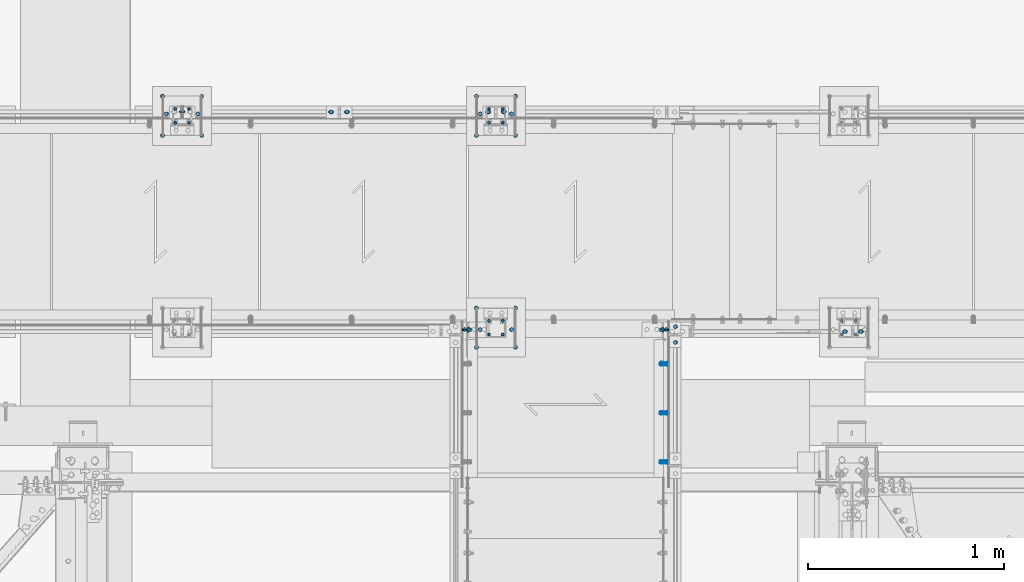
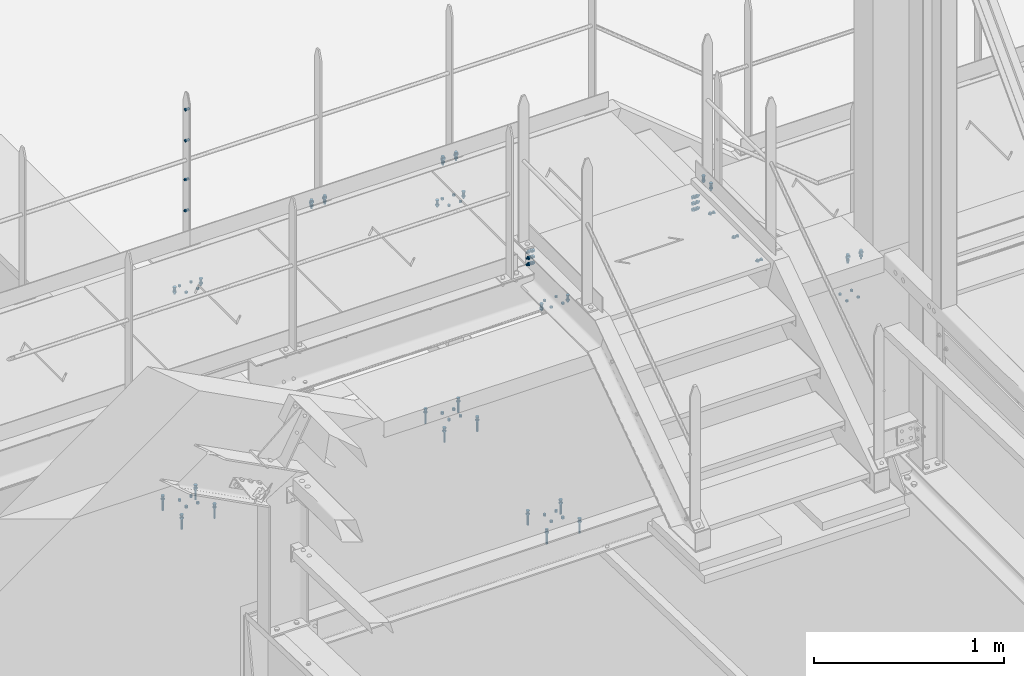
# One storey, part 182 of 362: 22 mechanical fasteners.
"""IFC2X3 building model written with IfcOpenShell, lengths in millimetres."""

from ifc_helpers import new_model, si_unit, frame, frame_2d, origin_with_axes, origin_2d_with_axis, place, context, subcontext, project, spatial, polyline, circle_curve, parameter, trimmed, segment, composite_curve, circle, outline, extrude, source, transform, mapped, material, type_object, element, save


model = new_model("IFC2X3")

# Units and contexts
model_context = context("Model", 3, precision=1e-05, world=origin_with_axes())
body_context = subcontext(model_context, "Body", "Model", "MODEL_VIEW")
ifc_project = project(units=[si_unit("LENGTHUNIT", "METRE", prefix="MILLI"), si_unit("AREAUNIT", "SQUARE_METRE"), si_unit("VOLUMEUNIT", "CUBIC_METRE"), si_unit("MASSUNIT", "GRAM", prefix="KILO"), si_unit("TIMEUNIT", "SECOND"), si_unit("PLANEANGLEUNIT", "RADIAN"), si_unit("SOLIDANGLEUNIT", "STERADIAN"), si_unit("THERMODYNAMICTEMPERATUREUNIT", "DEGREE_CELSIUS"), si_unit("LUMINOUSINTENSITYUNIT", "LUMEN")], contexts=[model_context])

# Site, building, storey
site_placement = place(None, origin_with_axes())
site = spatial("IfcSite", under=ifc_project, at=site_placement, Name="Undefined", CompositionType="ELEMENT")
building_placement = place(site_placement, origin_with_axes())
building = spatial("IfcBuilding", under=site, at=building_placement, Name="Undefined", CompositionType="ELEMENT")
storey_placement = place(building_placement, origin_with_axes())
storey = spatial("IfcBuildingStorey", under=building, at=storey_placement, Name="Undefined", CompositionType="ELEMENT", Elevation=0.0)

# Mechanical fasteners
ifc_material_1 = material(Name="8.8-SB-GALVA")
mechanical_fastener_type = type_object("IfcMechanicalFastenerType", Name="Bolt assembly")
shared_shape_1 = source(origin_with_axes(), body_context, "Body", "SweptSolid", [
    extrude(circle(Radius=7.0, at=origin_2d_with_axis()), frame((0.0, -0.100155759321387, 0.0), z_axis=(0.0, 1.0, 0.0), x_axis=(1.0, 0.0, 0.0)), (0.0, 0.0, 1.0), 12.9),
    extrude(outline(composite_curve([segment(polyline([(-7.0, 7.0), (7.0, 7.0)]), True, "CONTINUOUS"), segment(trimmed(circle_curve(frame_2d((7.0, 0.0), x_axis=(0.0, 1.0)), 7.0), [parameter(0.0)], [parameter(3.14159265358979)], False, "PARAMETER"), True, "CONTINUOUS"), segment(polyline([(7.0, -7.0), (-7.0, -7.0)]), True, "CONTINUOUS"), segment(trimmed(circle_curve(frame_2d((-7.0, 0.0), x_axis=(0.0, -1.0)), 7.0), [parameter(0.0)], [parameter(3.14159265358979)], False, "PARAMETER"), True, "DISCONTINUOUS")], self_intersect=False)), frame((0.0, -9.9, 0.0), z_axis=(0.0, 1.0, 0.0), x_axis=(1.0, 0.0, 0.0)), (0.0, 0.0, 1.0), 10.0),
    extrude(outline(polyline([(10.39230484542, 0.0), (5.19615242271, 9.00000000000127), (-5.19615242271, 9.00000000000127), (-10.39230484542, 0.0), (-5.19615242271, -9.00000000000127), (5.19615242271, -9.00000000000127), (10.39230484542, 0.0)])), frame((0.0, -21.88, 0.0), z_axis=(0.0, 1.0, 0.0), x_axis=(1.0, 0.0, 0.0)), (0.0, 0.0, 1.0), 7.92),
    extrude(circle(Radius=6.0, at=origin_2d_with_axis()), frame((0.0, -13.96, 0.0), z_axis=(0.0, 1.0, 0.0), x_axis=(1.0, 0.0, 0.0)), (0.0, 0.0, 1.0), 50.0),
    extrude(circle(Radius=10.8, at=origin_2d_with_axis()), frame((0.0, -13.96, 0.0), z_axis=(0.0, 1.0, 0.0), x_axis=(1.0, 0.0, 0.0)), (0.0, 0.0, 1.0), 3.96),
    extrude(outline(polyline([(11.5008173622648, 0.0), (5.7504086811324, 9.96000000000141), (-5.7504086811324, 9.96000000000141), (-11.5008173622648, 0.0), (-5.7504086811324, -9.96000000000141), (5.7504086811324, -9.96000000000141), (11.5008173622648, 0.0)])), frame((0.0, 12.7998611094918, 0.0), z_axis=(0.0, 1.0, 0.0), x_axis=(1.0, 0.0, 0.0)), (0.0, 0.0, 1.0), 7.92),
])
mechanical_fastener_1_placement = place(storey_placement, frame((23435.0123796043, 15970.0000882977, 8109.9999407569), z_axis=(0.0, 1.0, 0.0), x_axis=(1.0, 0.0, 0.0)))
element("IfcMechanicalFastener", 1, at=mechanical_fastener_1_placement, inside=storey, type_object=mechanical_fastener_type, material=ifc_material_1, Name="Bolt assembly", NominalDiameter=12.0, NominalLength=50.0, context=body_context, shape_type="MappedRepresentation", body=[
    mapped(shared_shape_1, transform((0.0, 0.0, 0.0))),
    mapped(shared_shape_1, transform((80.0, 0.0, 0.0))),
])
ifc_material_2 = material(Name="6.8")
shared_shape_2 = source(origin_with_axes(), body_context, "Body", "SweptSolid", [
    extrude(circle(Radius=7.0, at=origin_2d_with_axis()), frame((0.0, -12.0, 0.0), z_axis=(0.0, 1.0, 0.0), x_axis=(1.0, 0.0, 0.0)), (0.0, 0.0, 1.0), 12.1),
])
mechanical_fastener_2_placement = place(storey_placement, frame((20055.0, 17034.9998774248, 7050.0), z_axis=(-1.0, 0.0, 0.0), x_axis=(0.0, 1.0, 0.0)))
element("IfcMechanicalFastener", 2, at=mechanical_fastener_2_placement, inside=storey, type_object=mechanical_fastener_type, material=ifc_material_2, Name="Bolt assembly", NominalDiameter=12.0, NominalLength=12.0, context=body_context, shape_type="MappedRepresentation", body=[
    mapped(shared_shape_2, transform((0.0, 0.0, -35.0))),
    mapped(shared_shape_2, transform((70.0, 0.0, -35.0))),
    mapped(shared_shape_2, transform((0.0, 0.0, 35.0))),
    mapped(shared_shape_2, transform((70.0, 0.0, 35.0))),
])
mechanical_fastener_3_placement = place(storey_placement, frame((21655.0, 16025.0001225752, 7050.0), z_axis=(1.0, 0.0, 0.0), x_axis=(0.0, -1.0, 0.0)))
element("IfcMechanicalFastener", 3, at=mechanical_fastener_3_placement, inside=storey, type_object=mechanical_fastener_type, material=ifc_material_2, Name="Bolt assembly", NominalDiameter=12.0, NominalLength=12.0, context=body_context, shape_type="MappedRepresentation", body=[
    mapped(shared_shape_2, transform((0.0, 0.0, 35.0))),
    mapped(shared_shape_2, transform((70.0, 0.0, 35.0))),
    mapped(shared_shape_2, transform((0.0, 0.0, -35.0))),
    mapped(shared_shape_2, transform((70.0, 0.0, -35.0))),
])
mechanical_fastener_4_placement = place(storey_placement, frame((21655.0, 17034.9998774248, 7050.0), z_axis=(-1.0, 0.0, 0.0), x_axis=(0.0, 1.0, 0.0)))
element("IfcMechanicalFastener", 4, at=mechanical_fastener_4_placement, inside=storey, type_object=mechanical_fastener_type, material=ifc_material_2, Name="Bolt assembly", NominalDiameter=12.0, NominalLength=12.0, context=body_context, shape_type="MappedRepresentation", body=[
    mapped(shared_shape_2, transform((0.0, 0.0, -35.0))),
    mapped(shared_shape_2, transform((70.0, 0.0, -35.0))),
    mapped(shared_shape_2, transform((0.0, 0.0, 35.0))),
    mapped(shared_shape_2, transform((70.0, 0.0, 35.0))),
])
ifc_material_3 = material(Name="HILTI-HSA-R")
shared_shape_3 = source(origin_with_axes(), body_context, "Body", "SweptSolid", [
    extrude(circle(Radius=7.0, at=origin_2d_with_axis()), frame((0.0, -12.0, 0.0), z_axis=(0.0, 1.0, 0.0), x_axis=(1.0, 0.0, 0.0)), (0.0, 0.0, 1.0), 12.1),
    extrude(outline(polyline([(10.39230484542, 0.0), (5.19615242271, 9.00000000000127), (-5.19615242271, 9.00000000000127), (-10.39230484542, 0.0), (-5.19615242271, -9.00000000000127), (5.19615242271, -9.00000000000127), (10.39230484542, 0.0)])), frame((0.0, -19.92, 0.0), z_axis=(0.0, 1.0, 0.0), x_axis=(1.0, 0.0, 0.0)), (0.0, 0.0, 1.0), 7.92),
    extrude(circle(Radius=6.0, at=origin_2d_with_axis()), frame((0.0, -12.0, 0.0), z_axis=(0.0, 1.0, 0.0), x_axis=(1.0, 0.0, 0.0)), (0.0, 0.0, 1.0), 89.2),
    extrude(outline(polyline([(11.5008173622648, 0.0), (5.7504086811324, 9.96000000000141), (-5.7504086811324, 9.96000000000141), (-11.5008173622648, 0.0), (-5.7504086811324, -9.96000000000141), (5.7504086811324, -9.96000000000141), (11.5008173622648, 0.0)])), frame((0.0, 0.0, 0.0), z_axis=(0.0, 1.0, 0.0), x_axis=(1.0, 0.0, 0.0)), (0.0, 0.0, 1.0), 7.92),
])
mechanical_fastener_5_placement = place(storey_placement, frame((20055.0, 16969.9998774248, 7050.0), z_axis=(-1.0, 0.0, 0.0), x_axis=(0.0, 1.0, 0.0)))
element("IfcMechanicalFastener", 5, at=mechanical_fastener_5_placement, inside=storey, type_object=mechanical_fastener_type, material=ifc_material_3, Name="Bolt assembly", NominalDiameter=12.0, NominalLength=89.1999969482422, context=body_context, shape_type="MappedRepresentation", body=[
    mapped(shared_shape_3, transform((0.0, 0.0, -100.0))),
    mapped(shared_shape_3, transform((200.0, 0.0, -100.0))),
    mapped(shared_shape_3, transform((0.0, 0.0, 100.0))),
    mapped(shared_shape_3, transform((200.0, 0.0, 100.0))),
])
mechanical_fastener_6_placement = place(storey_placement, frame((21655.0, 16090.0001225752, 7050.0), z_axis=(1.0, 0.0, 0.0), x_axis=(0.0, -1.0, 0.0)))
element("IfcMechanicalFastener", 6, at=mechanical_fastener_6_placement, inside=storey, type_object=mechanical_fastener_type, material=ifc_material_3, Name="Bolt assembly", NominalDiameter=12.0, NominalLength=89.1999969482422, context=body_context, shape_type="MappedRepresentation", body=[
    mapped(shared_shape_3, transform((0.0, 0.0, 100.0))),
    mapped(shared_shape_3, transform((200.0, 0.0, 100.0))),
    mapped(shared_shape_3, transform((0.0, 0.0, -100.0))),
    mapped(shared_shape_3, transform((200.0, 0.0, -100.0))),
])
mechanical_fastener_7_placement = place(storey_placement, frame((21655.0, 16969.9998774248, 7050.0), z_axis=(-1.0, 0.0, 0.0), x_axis=(0.0, 1.0, 0.0)))
element("IfcMechanicalFastener", 7, at=mechanical_fastener_7_placement, inside=storey, type_object=mechanical_fastener_type, material=ifc_material_3, Name="Bolt assembly", NominalDiameter=12.0, NominalLength=89.1999969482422, context=body_context, shape_type="MappedRepresentation", body=[
    mapped(shared_shape_3, transform((0.0, 0.0, -100.0))),
    mapped(shared_shape_3, transform((200.0, 0.0, -100.0))),
    mapped(shared_shape_3, transform((0.0, 0.0, 100.0))),
    mapped(shared_shape_3, transform((200.0, 0.0, 100.0))),
])
shared_shape_4 = source(origin_with_axes(), body_context, "Body", "SweptSolid", [
    extrude(circle(Radius=5.0, at=origin_2d_with_axis()), frame((0.0, -4.90000000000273, 0.0), z_axis=(0.0, 1.0, 0.0), x_axis=(1.0, 0.0, 0.0)), (0.0, 0.0, 1.0), 5.0),
    extrude(circle(Radius=5.0, at=origin_2d_with_axis()), frame((0.0, -0.100011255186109, 0.0), z_axis=(0.0, 1.0, 0.0), x_axis=(1.0, 0.0, 0.0)), (0.0, 0.0, 1.0), 5.1),
    extrude(outline(polyline([(7.50555349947, 0.0), (3.752776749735, 6.50000000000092), (-3.752776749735, 6.50000000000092), (-7.50555349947, 0.0), (-3.752776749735, -6.50000000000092), (3.752776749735, -6.50000000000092), (7.50555349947, 0.0)])), frame((0.0, -10.5000000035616, 0.0), z_axis=(0.0, 1.0, 0.0), x_axis=(1.0, 0.0, 0.0)), (0.0, 0.0, 1.0), 5.5),
    extrude(circle(Radius=4.0, at=origin_2d_with_axis()), frame((0.0, -5.00000000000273, 0.0), z_axis=(0.0, 1.0, 0.0), x_axis=(1.0, 0.0, 0.0)), (0.0, 0.0, 1.0), 20.0),
    extrude(outline(polyline([(7.50555349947, 0.0), (3.752776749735, 6.50000000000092), (-3.752776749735, 6.50000000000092), (-7.50555349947, 0.0), (-3.752776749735, -6.50000000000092), (3.752776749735, -6.50000000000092), (7.50555349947, 0.0)])), frame((0.0, 5.0, 0.0), z_axis=(0.0, 1.0, 0.0), x_axis=(1.0, 0.0, 0.0)), (0.0, 0.0, 1.0), 6.8),
])
mechanical_fastener_8_placement = place(storey_placement, frame((20054.9961849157, 17089.9938659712, 9118.80000001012), z_axis=(0.0, 1.0, 0.0), x_axis=(0.0, 0.0, -1.0)))
element("IfcMechanicalFastener", 8, at=mechanical_fastener_8_placement, inside=storey, type_object=mechanical_fastener_type, material=ifc_material_2, Name="Bolt assembly", NominalDiameter=8.0, NominalLength=20.0, context=body_context, shape_type="MappedRepresentation", body=[
    mapped(shared_shape_4, transform((0.0, 0.0, 0.0))),
    mapped(shared_shape_4, transform((200.0, 0.0, 0.0))),
])
shared_shape_5 = source(origin_with_axes(), body_context, "Body", "SweptSolid", [
    extrude(circle(Radius=5.0, at=origin_2d_with_axis()), frame((0.0, -0.100011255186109, 0.0), z_axis=(0.0, 1.0, 0.0), x_axis=(1.0, 0.0, 0.0)), (0.0, 0.0, 1.0), 5.1),
    extrude(circle(Radius=5.0, at=origin_2d_with_axis()), frame((0.0, -4.90000000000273, 0.0), z_axis=(0.0, 1.0, 0.0), x_axis=(1.0, 0.0, 0.0)), (0.0, 0.0, 1.0), 5.0),
    extrude(outline(polyline([(7.50555349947, 0.0), (3.752776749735, 6.50000000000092), (-3.752776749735, 6.50000000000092), (-7.50555349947, 0.0), (-3.752776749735, -6.50000000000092), (3.752776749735, -6.50000000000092), (7.50555349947, 0.0)])), frame((0.0, -10.5000000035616, 0.0), z_axis=(0.0, 1.0, 0.0), x_axis=(1.0, 0.0, 0.0)), (0.0, 0.0, 1.0), 5.5),
    extrude(circle(Radius=4.0, at=origin_2d_with_axis()), frame((0.0, -5.00000000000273, 0.0), z_axis=(0.0, 1.0, 0.0), x_axis=(1.0, 0.0, 0.0)), (0.0, 0.0, 1.0), 20.0),
    extrude(outline(polyline([(7.50555349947, 0.0), (3.752776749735, 6.50000000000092), (-3.752776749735, 6.50000000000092), (-7.50555349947, 0.0), (-3.752776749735, -6.50000000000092), (3.752776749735, -6.50000000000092), (7.50555349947, 0.0)])), frame((0.0, 5.0, 0.0), z_axis=(0.0, 1.0, 0.0), x_axis=(1.0, 0.0, 0.0)), (0.0, 0.0, 1.0), 6.8),
])
mechanical_fastener_9_placement = place(storey_placement, frame((20054.9961849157, 17089.9938659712, 9368.80000001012), z_axis=(0.0, 1.0, 0.0), x_axis=(0.0, 0.0, 1.0)))
element("IfcMechanicalFastener", 9, at=mechanical_fastener_9_placement, inside=storey, type_object=mechanical_fastener_type, material=ifc_material_2, Name="Bolt assembly", NominalDiameter=8.0, NominalLength=20.0, context=body_context, shape_type="MappedRepresentation", body=[
    mapped(shared_shape_5, transform((0.0, 0.0, 0.0))),
    mapped(shared_shape_5, transform((200.0, 0.0, 0.0))),
])
shared_shape_6 = source(origin_with_axes(), body_context, "Body", "SweptSolid", [
    extrude(circle(Radius=7.0, at=origin_2d_with_axis()), frame((0.0, -0.10007666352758, 0.0), z_axis=(0.0, 1.0, 0.0), x_axis=(1.0, 0.0, 0.0)), (0.0, 0.0, 1.0), 12.9),
    extrude(outline(composite_curve([segment(polyline([(-7.0, 7.0), (7.0, 7.0)]), True, "CONTINUOUS"), segment(trimmed(circle_curve(frame_2d((7.0, 0.0), x_axis=(0.0, 1.0)), 7.0), [parameter(0.0)], [parameter(3.14159265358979)], False, "PARAMETER"), True, "CONTINUOUS"), segment(polyline([(7.0, -7.0), (-7.0, -7.0)]), True, "CONTINUOUS"), segment(trimmed(circle_curve(frame_2d((-7.0, 0.0), x_axis=(0.0, -1.0)), 7.0), [parameter(0.0)], [parameter(3.14159265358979)], False, "PARAMETER"), True, "DISCONTINUOUS")], self_intersect=False)), frame((0.0, -9.9, 0.0), z_axis=(0.0, 1.0, 0.0), x_axis=(1.0, 0.0, 0.0)), (0.0, 0.0, 1.0), 10.0),
    extrude(outline(polyline([(10.39230484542, 0.0), (5.19615242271, 9.00000000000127), (-5.19615242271, 9.00000000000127), (-10.39230484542, 0.0), (-5.19615242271, -9.00000000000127), (5.19615242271, -9.00000000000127), (10.39230484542, 0.0)])), frame((0.0, -21.88, 0.0), z_axis=(0.0, 1.0, 0.0), x_axis=(1.0, 0.0, 0.0)), (0.0, 0.0, 1.0), 7.92),
    extrude(circle(Radius=6.0, at=origin_2d_with_axis()), frame((0.0, -13.96, 0.0), z_axis=(0.0, 1.0, 0.0), x_axis=(1.0, 0.0, 0.0)), (0.0, 0.0, 1.0), 50.0),
    extrude(circle(Radius=10.8, at=origin_2d_with_axis()), frame((0.0, -13.96, 0.0), z_axis=(0.0, 1.0, 0.0), x_axis=(1.0, 0.0, 0.0)), (0.0, 0.0, 1.0), 3.96),
    extrude(outline(polyline([(11.5008173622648, 0.0), (5.7504086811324, 9.96000000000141), (-5.7504086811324, 9.96000000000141), (-11.5008173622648, 0.0), (-5.7504086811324, -9.96000000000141), (5.7504086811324, -9.96000000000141), (11.5008173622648, 0.0)])), frame((0.0, 12.8003194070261, 0.0), z_axis=(0.0, 1.0, 0.0), x_axis=(1.0, 0.0, 0.0)), (0.0, 0.0, 1.0), 7.92),
])
mechanical_fastener_10_placement = place(storey_placement, frame((20815.0023796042, 17089.9938659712, 8700.00000001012), z_axis=(0.0, 1.0, 0.0), x_axis=(1.0, 0.0, 0.0)))
element("IfcMechanicalFastener", 10, at=mechanical_fastener_10_placement, inside=storey, type_object=mechanical_fastener_type, material=ifc_material_1, Name="Bolt assembly", NominalDiameter=12.0, NominalLength=50.0, context=body_context, shape_type="MappedRepresentation", body=[
    mapped(shared_shape_6, transform((0.0, 0.0, 0.0))),
    mapped(shared_shape_6, transform((80.0, 0.0, 0.0))),
])
shared_shape_7 = source(origin_with_axes(), body_context, "Body", "SweptSolid", [
    extrude(circle(Radius=7.0, at=origin_2d_with_axis()), frame((0.0, -0.10007666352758, 0.0), z_axis=(0.0, 1.0, 0.0), x_axis=(1.0, 0.0, 0.0)), (0.0, 0.0, 1.0), 12.9),
    extrude(outline(composite_curve([segment(polyline([(-7.0, 7.0), (7.0, 7.0)]), True, "CONTINUOUS"), segment(trimmed(circle_curve(frame_2d((7.0, 0.0), x_axis=(0.0, 1.0)), 7.0), [parameter(0.0)], [parameter(3.14159265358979)], False, "PARAMETER"), True, "CONTINUOUS"), segment(polyline([(7.0, -7.0), (-7.0, -7.0)]), True, "CONTINUOUS"), segment(trimmed(circle_curve(frame_2d((-7.0, 0.0), x_axis=(0.0, -1.0)), 7.0), [parameter(0.0)], [parameter(3.14159265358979)], False, "PARAMETER"), True, "DISCONTINUOUS")], self_intersect=False)), frame((0.0, -9.9, 0.0), z_axis=(0.0, 1.0, 0.0), x_axis=(1.0, 0.0, 0.0)), (0.0, 0.0, 1.0), 10.0),
    extrude(outline(polyline([(10.39230484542, 0.0), (5.19615242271, 9.00000000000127), (-5.19615242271, 9.00000000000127), (-10.39230484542, 0.0), (-5.19615242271, -9.00000000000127), (5.19615242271, -9.00000000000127), (10.39230484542, 0.0)])), frame((0.0, -21.88, 0.0), z_axis=(0.0, 1.0, 0.0), x_axis=(1.0, 0.0, 0.0)), (0.0, 0.0, 1.0), 7.92),
    extrude(circle(Radius=6.0, at=origin_2d_with_axis()), frame((0.0, -13.96, 0.0), z_axis=(0.0, 1.0, 0.0), x_axis=(1.0, 0.0, 0.0)), (0.0, 0.0, 1.0), 50.0),
    extrude(circle(Radius=10.8, at=origin_2d_with_axis()), frame((0.0, -13.96, 0.0), z_axis=(0.0, 1.0, 0.0), x_axis=(1.0, 0.0, 0.0)), (0.0, 0.0, 1.0), 3.96),
    extrude(outline(polyline([(11.5008173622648, 0.0), (5.7504086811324, 9.96000000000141), (-5.7504086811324, 9.96000000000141), (-11.5008173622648, 0.0), (-5.7504086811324, -9.96000000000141), (5.7504086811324, -9.96000000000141), (11.5008173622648, 0.0)])), frame((0.0, 12.8001901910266, 0.0), z_axis=(0.0, 1.0, 0.0), x_axis=(1.0, 0.0, 0.0)), (0.0, 0.0, 1.0), 7.92),
])
mechanical_fastener_11_placement = place(storey_placement, frame((21615.0023796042, 17089.9938659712, 8700.00000001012), z_axis=(0.0, 1.0, 0.0), x_axis=(1.0, 0.0, 0.0)))
element("IfcMechanicalFastener", 11, at=mechanical_fastener_11_placement, inside=storey, type_object=mechanical_fastener_type, material=ifc_material_1, Name="Bolt assembly", NominalDiameter=12.0, NominalLength=50.0, context=body_context, shape_type="MappedRepresentation", body=[
    mapped(shared_shape_7, transform((0.0, 0.0, 0.0))),
    mapped(shared_shape_7, transform((80.0, 0.0, 0.0))),
])
shared_shape_8 = source(origin_with_axes(), body_context, "Body", "SweptSolid", [
    extrude(circle(Radius=7.0, at=origin_2d_with_axis()), frame((0.0, -0.100011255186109, 0.0), z_axis=(0.0, 1.0, 0.0), x_axis=(1.0, 0.0, 0.0)), (0.0, 0.0, 1.0), 12.9),
    extrude(circle(Radius=7.0, at=origin_2d_with_axis()), frame((0.0, -9.9, 0.0), z_axis=(0.0, 1.0, 0.0), x_axis=(1.0, 0.0, 0.0)), (0.0, 0.0, 1.0), 10.0),
    extrude(outline(polyline([(10.39230484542, 0.0), (5.19615242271, 9.00000000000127), (-5.19615242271, 9.00000000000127), (-10.39230484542, 0.0), (-5.19615242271, -9.00000000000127), (5.19615242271, -9.00000000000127), (10.39230484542, 0.0)])), frame((0.0, -17.92, 0.0), z_axis=(0.0, 1.0, 0.0), x_axis=(1.0, 0.0, 0.0)), (0.0, 0.0, 1.0), 7.92),
    extrude(circle(Radius=6.0, at=origin_2d_with_axis()), frame((0.0, -10.0000010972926, 0.0), z_axis=(0.0, 1.0, 0.0), x_axis=(1.0, 0.0, 0.0)), (0.0, 0.0, 1.0), 40.0),
    extrude(outline(polyline([(11.5008173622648, 0.0), (5.7504086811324, 9.96000000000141), (-5.7504086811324, 9.96000000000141), (-11.5008173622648, 0.0), (-5.7504086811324, -9.96000000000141), (5.7504086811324, -9.96000000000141), (11.5008173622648, 0.0)])), frame((0.0, 12.8009436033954, 0.0), z_axis=(0.0, 1.0, 0.0), x_axis=(1.0, 0.0, 0.0)), (0.0, 0.0, 1.0), 7.92),
])
mechanical_fastener_12_placement = place(storey_placement, frame((22569.9936634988, 15914.9996531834, 8910.0), z_axis=(-1.0, 0.0, 0.0), x_axis=(0.0, 1.0, 0.0)))
element("IfcMechanicalFastener", 12, at=mechanical_fastener_12_placement, inside=storey, type_object=mechanical_fastener_type, material=ifc_material_1, Name="Bolt assembly", NominalDiameter=12.0, NominalLength=40.0, context=body_context, shape_type="MappedRepresentation", body=[
    mapped(shared_shape_8, transform((0.0, 0.0, 0.0))),
    mapped(shared_shape_8, transform((80.0, 0.0, 0.0))),
])
shared_shape_9 = source(origin_with_axes(), body_context, "Body", "SweptSolid", [
    extrude(circle(Radius=7.0, at=origin_2d_with_axis()), frame((0.0, -13.4999650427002, 0.0), z_axis=(0.0, 1.0, 0.0), x_axis=(1.0, 0.0, 0.0)), (0.0, 0.0, 1.0), 13.6),
    extrude(circle(Radius=7.0, at=origin_2d_with_axis()), frame((0.0, -0.10007666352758, 0.0), z_axis=(0.0, 1.0, 0.0), x_axis=(1.0, 0.0, 0.0)), (0.0, 0.0, 1.0), 8.1),
    extrude(outline(polyline([(10.39230484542, 0.0), (5.19615242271, 9.00000000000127), (-5.19615242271, 9.00000000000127), (-10.39230484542, 0.0), (-5.19615242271, -9.00000000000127), (5.19615242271, -9.00000000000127), (10.39230484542, 0.0)])), frame((0.0, -21.5199650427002, 0.0), z_axis=(0.0, 1.0, 0.0), x_axis=(1.0, 0.0, 0.0)), (0.0, 0.0, 1.0), 7.92),
    extrude(circle(Radius=6.0, at=origin_2d_with_axis()), frame((0.0, -13.5999650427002, 0.0), z_axis=(0.0, 1.0, 0.0), x_axis=(1.0, 0.0, 0.0)), (0.0, 0.0, 1.0), 40.0),
    extrude(outline(polyline([(11.5008173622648, 0.0), (5.7504086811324, 9.96000000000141), (-5.7504086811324, 9.96000000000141), (-11.5008173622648, 0.0), (-5.7504086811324, -9.96000000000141), (5.7504086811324, -9.96000000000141), (11.5008173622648, 0.0)])), frame((0.0, 7.99992914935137, 0.0), z_axis=(0.0, 1.0, 0.0), x_axis=(1.0, 0.0, 0.0)), (0.0, 0.0, 1.0), 7.92),
])
mechanical_fastener_13_placement = place(storey_placement, frame((20055.0, 17079.9998774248, 8440.00004576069), z_axis=(1.0, 0.0, 0.0), x_axis=(0.0, -1.0, 0.0)))
element("IfcMechanicalFastener", 13, at=mechanical_fastener_13_placement, inside=storey, type_object=mechanical_fastener_type, material=ifc_material_1, Name="Bolt assembly", NominalDiameter=12.0, NominalLength=40.0, context=body_context, shape_type="MappedRepresentation", body=[
    mapped(shared_shape_9, transform((0.0, 0.0, -80.0))),
    mapped(shared_shape_9, transform((0.0, 0.0, 80.0))),
])
shared_shape_10 = source(origin_with_axes(), body_context, "Body", "SweptSolid", [
    extrude(circle(Radius=7.0, at=origin_2d_with_axis()), frame((0.0, 0.0, 0.0), z_axis=(0.0, 1.0, 0.0), x_axis=(1.0, 0.0, 0.0)), (0.0, 0.0, 1.0), 8.1),
])
mechanical_fastener_14_placement = place(storey_placement, frame((20055.0, 17034.9998774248, 8440.00011661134), z_axis=(-1.0, 0.0, 0.0), x_axis=(0.0, 1.0, 0.0)))
element("IfcMechanicalFastener", 14, at=mechanical_fastener_14_placement, inside=storey, type_object=mechanical_fastener_type, material=ifc_material_2, Name="Bolt assembly", NominalDiameter=12.0, NominalLength=8.0, context=body_context, shape_type="MappedRepresentation", body=[
    mapped(shared_shape_10, transform((0.0, 0.0, -35.0))),
    mapped(shared_shape_10, transform((70.0, 0.0, -35.0))),
    mapped(shared_shape_10, transform((0.0, 0.0, 35.0))),
    mapped(shared_shape_10, transform((70.0, 0.0, 35.0))),
])
for number, where, z_axis, x_axis, name in (
    (15, (21655.0, 16025.0001225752, 8440.00011661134), (1.0, 0.0, 0.0), (0.0, -1.0, 0.0), "Bolt assembly"),
    (16, (23455.0, 16025.0001225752, 7850.00001160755), (1.0, 0.0, 0.0), (0.0, -1.0, 0.0), "Bolt assembly"),
):
    element("IfcMechanicalFastener", number, at=place(storey_placement, frame(where, z_axis=z_axis, x_axis=x_axis)), inside=storey, type_object=mechanical_fastener_type, material=ifc_material_2, Name=name, NominalDiameter=12.0, NominalLength=8.0, context=body_context, shape_type="MappedRepresentation", body=[
        mapped(shared_shape_10, transform((0.0, 0.0, 35.0))),
        mapped(shared_shape_10, transform((70.0, 0.0, 35.0))),
        mapped(shared_shape_10, transform((0.0, 0.0, -35.0))),
        mapped(shared_shape_10, transform((70.0, 0.0, -35.0))),
    ])
mechanical_fastener_15_placement = place(storey_placement, frame((21655.0, 17034.9998774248, 8440.00011661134), z_axis=(-1.0, 0.0, 0.0), x_axis=(0.0, 1.0, 0.0)))
element("IfcMechanicalFastener", 17, at=mechanical_fastener_15_placement, inside=storey, type_object=mechanical_fastener_type, material=ifc_material_2, Name="Bolt assembly", NominalDiameter=12.0, NominalLength=8.0, context=body_context, shape_type="MappedRepresentation", body=[
    mapped(shared_shape_10, transform((0.0, 0.0, -35.0))),
    mapped(shared_shape_10, transform((70.0, 0.0, -35.0))),
    mapped(shared_shape_10, transform((0.0, 0.0, 35.0))),
    mapped(shared_shape_10, transform((70.0, 0.0, 35.0))),
])
shared_shape_11 = source(origin_with_axes(), body_context, "Body", "SweptSolid", [
    extrude(circle(Radius=7.0, at=origin_2d_with_axis()), frame((0.0, -14.9176290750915, 0.0), z_axis=(0.0, 1.0, 0.0), x_axis=(1.0, 0.0, 0.0)), (0.0, 0.0, 1.0), 10.0),
    extrude(circle(Radius=7.0, at=origin_2d_with_axis()), frame((0.0, -5.09380520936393, 0.0), z_axis=(0.0, 1.0, 0.0), x_axis=(1.0, 0.0, 0.0)), (0.0, 0.0, 1.0), 5.1),
    extrude(outline(polyline([(10.39230484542, 0.0), (5.19615242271, 9.00000000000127), (-5.19615242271, 9.00000000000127), (-10.39230484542, 0.0), (-5.19615242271, -9.00000000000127), (5.19615242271, -9.00000000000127), (10.39230484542, 0.0)])), frame((0.0, -22.9376290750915, 0.0), z_axis=(0.0, 1.0, 0.0), x_axis=(1.0, 0.0, 0.0)), (0.0, 0.0, 1.0), 7.92),
    extrude(circle(Radius=6.0, at=origin_2d_with_axis()), frame((0.0, -15.0176290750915, 0.0), z_axis=(0.0, 1.0, 0.0), x_axis=(1.0, 0.0, 0.0)), (0.0, 0.0, 1.0), 30.0),
    extrude(outline(polyline([(11.5008173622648, 0.0), (5.7504086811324, 9.96000000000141), (-5.7504086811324, 9.96000000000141), (-11.5008173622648, 0.0), (-5.7504086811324, -9.96000000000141), (5.7504086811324, -9.96000000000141), (11.5008173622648, 0.0)])), frame((0.0, 0.00619479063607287, 0.0), z_axis=(0.0, 1.0, 0.0), x_axis=(1.0, 0.0, 0.0)), (0.0, 0.0, 1.0), 7.92),
])
mechanical_fastener_16_placement = place(storey_placement, frame((22504.9876275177, 15555.0058468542, 8820.0), z_axis=(0.0, -1.0, 0.0), x_axis=(0.0, 0.0, 1.0)))
element("IfcMechanicalFastener", 18, at=mechanical_fastener_16_placement, inside=storey, type_object=mechanical_fastener_type, material=ifc_material_1, Name="Bolt assembly", NominalDiameter=12.0, NominalLength=30.0, context=body_context, shape_type="MappedRepresentation", body=[
    mapped(shared_shape_11, transform((0.0, 0.0, -250.0))),
    mapped(shared_shape_11, transform((0.0, 0.0, 0.0))),
    mapped(shared_shape_11, transform((0.0, 0.0, 250.0))),
])
shared_shape_12 = source(origin_with_axes(), body_context, "Body", "SweptSolid", [
    extrude(circle(Radius=7.0, at=origin_2d_with_axis()), frame((0.0, -0.0962673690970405, 0.0), z_axis=(0.0, 1.0, 0.0), x_axis=(1.0, 0.0, 0.0)), (0.0, 0.0, 1.0), 10.1),
    extrude(outline(composite_curve([segment(polyline([(7.0, 7.0), (7.0, -7.0)]), True, "CONTINUOUS"), segment(trimmed(circle_curve(frame_2d((0.0, -7.0), x_axis=(1.0, 0.0)), 7.0), [parameter(0.0)], [parameter(3.14159265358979)], False, "PARAMETER"), True, "CONTINUOUS"), segment(polyline([(-7.0, -7.0), (-7.0, 7.0)]), True, "CONTINUOUS"), segment(trimmed(circle_curve(frame_2d((0.0, 7.0), x_axis=(-1.0, 0.0)), 7.0), [parameter(0.0)], [parameter(3.14159265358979)], False, "PARAMETER"), True, "DISCONTINUOUS")], self_intersect=False)), frame((0.0, -7.9, 0.0), z_axis=(0.0, 1.0, 0.0), x_axis=(1.0, 0.0, 0.0)), (0.0, 0.0, 1.0), 8.0),
    extrude(outline(polyline([(10.39230484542, 0.0), (5.19615242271, 9.00000000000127), (-5.19615242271, 9.00000000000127), (-10.39230484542, 0.0), (-5.19615242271, -9.00000000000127), (5.19615242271, -9.00000000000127), (10.39230484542, 0.0)])), frame((0.0, -19.88, 0.0), z_axis=(0.0, 1.0, 0.0), x_axis=(1.0, 0.0, 0.0)), (0.0, 0.0, 1.0), 7.92),
    extrude(circle(Radius=6.0, at=origin_2d_with_axis()), frame((0.0, -11.96, 0.0), z_axis=(0.0, 1.0, 0.0), x_axis=(1.0, 0.0, 0.0)), (0.0, 0.0, 1.0), 40.0),
    extrude(circle(Radius=10.8, at=origin_2d_with_axis()), frame((0.0, -11.96, 0.0), z_axis=(0.0, 1.0, 0.0), x_axis=(1.0, 0.0, 0.0)), (0.0, 0.0, 1.0), 3.96),
    extrude(outline(polyline([(11.5008173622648, 0.0), (5.7504086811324, 9.96000000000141), (-5.7504086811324, 9.96000000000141), (-11.5008173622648, 0.0), (-5.7504086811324, -9.96000000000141), (5.7504086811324, -9.96000000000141), (11.5008173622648, 0.0)])), frame((0.0, 10.0037326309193, 0.0), z_axis=(0.0, 1.0, 0.0), x_axis=(1.0, 0.0, 0.0)), (0.0, 0.0, 1.0), 7.92),
])
mechanical_fastener_17_placement = place(storey_placement, frame((22510.0018452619, 15980.0058471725, 8820.0), z_axis=(0.0, -1.0, 0.0), x_axis=(0.0, 0.0, -1.0)))
element("IfcMechanicalFastener", 19, at=mechanical_fastener_17_placement, inside=storey, type_object=mechanical_fastener_type, material=ifc_material_1, Name="Bolt assembly", NominalDiameter=12.0, NominalLength=40.0, context=body_context, shape_type="MappedRepresentation", body=[
    mapped(shared_shape_12, transform((0.0, 0.0, 0.0))),
    mapped(shared_shape_12, transform((40.0, 0.0, 0.0))),
    mapped(shared_shape_12, transform((80.0, 0.0, 0.0))),
])
shared_shape_13 = source(origin_with_axes(), body_context, "Body", "SweptSolid", [
    extrude(circle(Radius=7.0, at=origin_2d_with_axis()), frame((0.0, -0.0962673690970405, 0.0), z_axis=(0.0, 1.0, 0.0), x_axis=(1.0, 0.0, 0.0)), (0.0, 0.0, 1.0), 10.1),
    extrude(outline(composite_curve([segment(polyline([(7.0, 7.0), (7.0, -7.0)]), True, "CONTINUOUS"), segment(trimmed(circle_curve(frame_2d((0.0, -7.0), x_axis=(1.0, 0.0)), 7.0), [parameter(0.0)], [parameter(3.14159265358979)], False, "PARAMETER"), True, "CONTINUOUS"), segment(polyline([(-7.0, -7.0), (-7.0, 7.0)]), True, "CONTINUOUS"), segment(trimmed(circle_curve(frame_2d((0.0, 7.0), x_axis=(-1.0, 0.0)), 7.0), [parameter(0.0)], [parameter(3.14159265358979)], False, "PARAMETER"), True, "DISCONTINUOUS")], self_intersect=False)), frame((0.0, -7.9, 0.0), z_axis=(0.0, 1.0, 0.0), x_axis=(1.0, 0.0, 0.0)), (0.0, 0.0, 1.0), 8.0),
    extrude(outline(polyline([(10.39230484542, 0.0), (5.19615242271, 9.00000000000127), (-5.19615242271, 9.00000000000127), (-10.39230484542, 0.0), (-5.19615242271, -9.00000000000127), (5.19615242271, -9.00000000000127), (10.39230484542, 0.0)])), frame((0.0, -19.88, 0.0), z_axis=(0.0, 1.0, 0.0), x_axis=(1.0, 0.0, 0.0)), (0.0, 0.0, 1.0), 7.92),
    extrude(circle(Radius=6.0, at=origin_2d_with_axis()), frame((0.0, -11.96, 0.0), z_axis=(0.0, 1.0, 0.0), x_axis=(1.0, 0.0, 0.0)), (0.0, 0.0, 1.0), 40.0),
    extrude(circle(Radius=10.8, at=origin_2d_with_axis()), frame((0.0, -11.96, 0.0), z_axis=(0.0, 1.0, 0.0), x_axis=(1.0, 0.0, 0.0)), (0.0, 0.0, 1.0), 3.96),
    extrude(outline(polyline([(11.5008173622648, 0.0), (5.7504086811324, 9.96000000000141), (-5.7504086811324, 9.96000000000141), (-11.5008173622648, 0.0), (-5.7504086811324, -9.96000000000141), (5.7504086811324, -9.96000000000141), (11.5008173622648, 0.0)])), frame((0.0, 10.0037326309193, 0.0), z_axis=(0.0, 1.0, 0.0), x_axis=(1.0, 0.0, 0.0)), (0.0, 0.0, 1.0), 7.92),
])
mechanical_fastener_18_placement = place(storey_placement, frame((21510.006186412, 15980.0058471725, 8820.0), z_axis=(0.0, 1.0, 0.0), x_axis=(0.0, 0.0, -1.0)))
element("IfcMechanicalFastener", 20, at=mechanical_fastener_18_placement, inside=storey, type_object=mechanical_fastener_type, material=ifc_material_1, Name="Bolt assembly", NominalDiameter=12.0, NominalLength=40.0, context=body_context, shape_type="MappedRepresentation", body=[
    mapped(shared_shape_13, transform((0.0, 0.0, 0.0))),
    mapped(shared_shape_13, transform((40.0, 0.0, 0.0))),
    mapped(shared_shape_13, transform((80.0, 0.0, 0.0))),
])
shared_shape_14 = source(origin_with_axes(), body_context, "Body", "SweptSolid", [
    extrude(circle(Radius=7.0, at=origin_2d_with_axis()), frame((0.0, -13.4998741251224, 0.0), z_axis=(0.0, 1.0, 0.0), x_axis=(1.0, 0.0, 0.0)), (0.0, 0.0, 1.0), 13.6),
    extrude(circle(Radius=7.0, at=origin_2d_with_axis()), frame((0.0, -0.10007666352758, 0.0), z_axis=(0.0, 1.0, 0.0), x_axis=(1.0, 0.0, 0.0)), (0.0, 0.0, 1.0), 8.1),
    extrude(outline(polyline([(10.39230484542, 0.0), (5.19615242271, 9.00000000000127), (-5.19615242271, 9.00000000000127), (-10.39230484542, 0.0), (-5.19615242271, -9.00000000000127), (5.19615242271, -9.00000000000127), (10.39230484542, 0.0)])), frame((0.0, -21.5198741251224, 0.0), z_axis=(0.0, 1.0, 0.0), x_axis=(1.0, 0.0, 0.0)), (0.0, 0.0, 1.0), 7.92),
    extrude(circle(Radius=6.0, at=origin_2d_with_axis()), frame((0.0, -13.5998741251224, 0.0), z_axis=(0.0, 1.0, 0.0), x_axis=(1.0, 0.0, 0.0)), (0.0, 0.0, 1.0), 40.0),
    extrude(outline(polyline([(11.5008173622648, 0.0), (5.7504086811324, 9.96000000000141), (-5.7504086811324, 9.96000000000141), (-11.5008173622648, 0.0), (-5.7504086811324, -9.96000000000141), (5.7504086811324, -9.96000000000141), (11.5008173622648, 0.0)])), frame((0.0, 7.99992914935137, 0.0), z_axis=(0.0, 1.0, 0.0), x_axis=(1.0, 0.0, 0.0)), (0.0, 0.0, 1.0), 7.92),
])
mechanical_fastener_19_placement = place(storey_placement, frame((21655.0, 17079.9998774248, 8440.00004576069), z_axis=(1.0, 0.0, 0.0), x_axis=(0.0, -1.0, 0.0)))
element("IfcMechanicalFastener", 21, at=mechanical_fastener_19_placement, inside=storey, type_object=mechanical_fastener_type, material=ifc_material_1, Name="Bolt assembly", NominalDiameter=12.0, NominalLength=40.0, context=body_context, shape_type="MappedRepresentation", body=[
    mapped(shared_shape_14, transform((0.0, 0.0, -80.0))),
    mapped(shared_shape_14, transform((0.0, 0.0, 80.0))),
])
mechanical_fastener_20_placement = place(storey_placement, frame((21655.0, 15980.0001225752, 8440.00004576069), z_axis=(-1.0, 0.0, 0.0), x_axis=(0.0, 1.0, 0.0)))
element("IfcMechanicalFastener", 22, at=mechanical_fastener_20_placement, inside=storey, type_object=mechanical_fastener_type, material=ifc_material_1, Name="Bolt assembly", NominalDiameter=12.0, NominalLength=40.0, context=body_context, shape_type="MappedRepresentation", body=[
    mapped(shared_shape_14, transform((0.0, 0.0, 80.0))),
    mapped(shared_shape_14, transform((0.0, 0.0, -80.0))),
])

save(model, "model.ifc")
